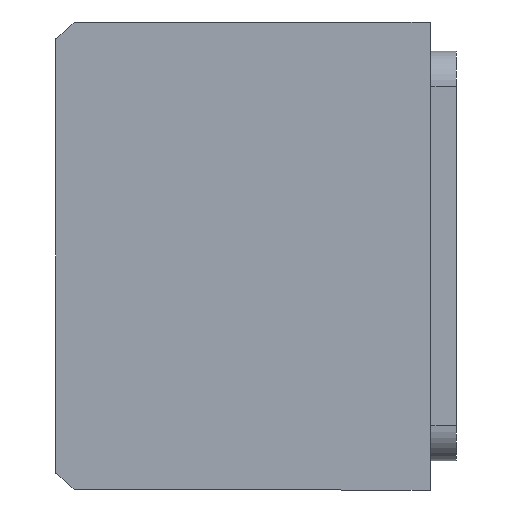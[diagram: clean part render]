
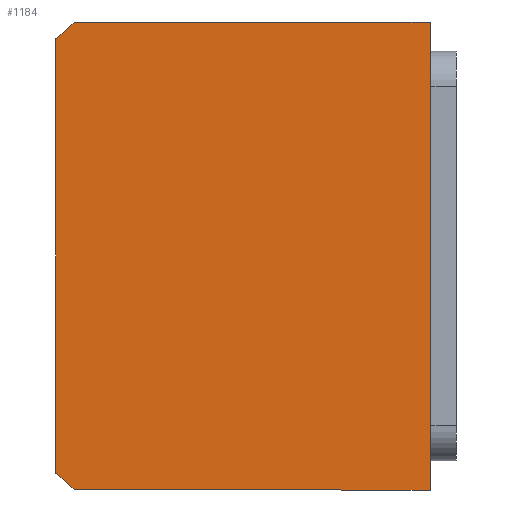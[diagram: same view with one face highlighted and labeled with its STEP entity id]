
A CAD part, front view. The second image highlights one B-rep face of the part: STEP entity #1184.
In plain terms, the highlighted planar face has unit normal (0, -1, 0) as drawn and (0, 0, -1) by its records, which use the part's own axes.
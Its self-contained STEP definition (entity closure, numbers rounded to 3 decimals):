
#79 = PLANE ( 'NONE',  #3230 ) ;
#124 = FACE_OUTER_BOUND ( 'NONE', #3210, .T. ) ;
#191 = VERTEX_POINT ( 'NONE', #3813 ) ;
#225 = CARTESIAN_POINT ( 'NONE',  ( 0., 0., 0. ) ) ;
#282 = VERTEX_POINT ( 'NONE', #3331 ) ;
#397 = VECTOR ( 'NONE', #7541, 1000. ) ;
#508 = VERTEX_POINT ( 'NONE', #5426 ) ;
#573 = CARTESIAN_POINT ( 'NONE',  ( -40., -11.507, 0. ) ) ;
#836 = ORIENTED_EDGE ( 'NONE', *, *, #1376, .F. ) ;
#899 = CARTESIAN_POINT ( 'NONE',  ( -40., -75.507, 0. ) ) ;
#983 = LINE ( 'NONE', #2793, #4908 ) ;
#1184 = ADVANCED_FACE ( 'NONE', ( #124 ), #79, .F. ) ;
#1376 = EDGE_CURVE ( 'NONE', #3557, #1709, #3532, .T. ) ;
#1470 = VECTOR ( 'NONE', #1566, 1000. ) ;
#1566 = DIRECTION ( 'NONE',  ( 0., -1., 0. ) ) ;
#1709 = VERTEX_POINT ( 'NONE', #7128 ) ;
#1829 = CIRCLE ( 'NONE', #7673, 51. ) ;
#1953 = EDGE_CURVE ( 'NONE', #191, #508, #3886, .T. ) ;
#2410 = ORIENTED_EDGE ( 'NONE', *, *, #8596, .F. ) ;
#2559 = AXIS2_PLACEMENT_3D ( 'NONE', #3021, #8527, #3809 ) ;
#2793 = CARTESIAN_POINT ( 'NONE',  ( -40., -11.507, 0. ) ) ;
#2810 = CARTESIAN_POINT ( 'NONE',  ( 0., -40.507, 0. ) ) ;
#2935 = ORIENTED_EDGE ( 'NONE', *, *, #8020, .F. ) ;
#3021 = CARTESIAN_POINT ( 'NONE',  ( 0., -40.507, 0. ) ) ;
#3210 = EDGE_LOOP ( 'NONE', ( #2410, #836, #3757, #8959, #2935, #3291 ) ) ;
#3230 = AXIS2_PLACEMENT_3D ( 'NONE', #225, #4186, #5441 ) ;
#3291 = ORIENTED_EDGE ( 'NONE', *, *, #4598, .F. ) ;
#3331 = CARTESIAN_POINT ( 'NONE',  ( -37.094, -75.507, 0. ) ) ;
#3375 = CARTESIAN_POINT ( 'NONE',  ( 37.094, -75.507, 0. ) ) ;
#3532 = LINE ( 'NONE', #4833, #1470 ) ;
#3557 = VERTEX_POINT ( 'NONE', #573 ) ;
#3584 = DIRECTION ( 'NONE',  ( 1., 0., 0. ) ) ;
#3757 = ORIENTED_EDGE ( 'NONE', *, *, #5575, .F. ) ;
#3809 = DIRECTION ( 'NONE',  ( 1., 0., 0. ) ) ;
#3813 = CARTESIAN_POINT ( 'NONE',  ( 40., -72.145, 0. ) ) ;
#3886 = LINE ( 'NONE', #7615, #9940 ) ;
#4186 = DIRECTION ( 'NONE',  ( 0., 0., 1. ) ) ;
#4540 = LINE ( 'NONE', #899, #397 ) ;
#4598 = EDGE_CURVE ( 'NONE', #282, #9085, #4540, .T. ) ;
#4833 = CARTESIAN_POINT ( 'NONE',  ( -40., -11.507, 0. ) ) ;
#4908 = VECTOR ( 'NONE', #8288, 1000. ) ;
#5426 = CARTESIAN_POINT ( 'NONE',  ( 40., -11.507, 0. ) ) ;
#5441 = DIRECTION ( 'NONE',  ( 1., 0., 0. ) ) ;
#5575 = EDGE_CURVE ( 'NONE', #508, #3557, #983, .T. ) ;
#5900 = DIRECTION ( 'NONE',  ( 0., 1., 0. ) ) ;
#7128 = CARTESIAN_POINT ( 'NONE',  ( -40., -72.145, 0. ) ) ;
#7541 = DIRECTION ( 'NONE',  ( 1., 0., 0. ) ) ;
#7615 = CARTESIAN_POINT ( 'NONE',  ( 40., -11.507, 0. ) ) ;
#7673 = AXIS2_PLACEMENT_3D ( 'NONE', #2810, #8302, #3584 ) ;
#8020 = EDGE_CURVE ( 'NONE', #9085, #191, #1829, .T. ) ;
#8288 = DIRECTION ( 'NONE',  ( -1., 0., 0. ) ) ;
#8302 = DIRECTION ( 'NONE',  ( 0., 0., 1. ) ) ;
#8527 = DIRECTION ( 'NONE',  ( 0., 0., 1. ) ) ;
#8596 = EDGE_CURVE ( 'NONE', #1709, #282, #9559, .T. ) ;
#8959 = ORIENTED_EDGE ( 'NONE', *, *, #1953, .F. ) ;
#9085 = VERTEX_POINT ( 'NONE', #3375 ) ;
#9559 = CIRCLE ( 'NONE', #2559, 51. ) ;
#9940 = VECTOR ( 'NONE', #5900, 1000. ) ;
